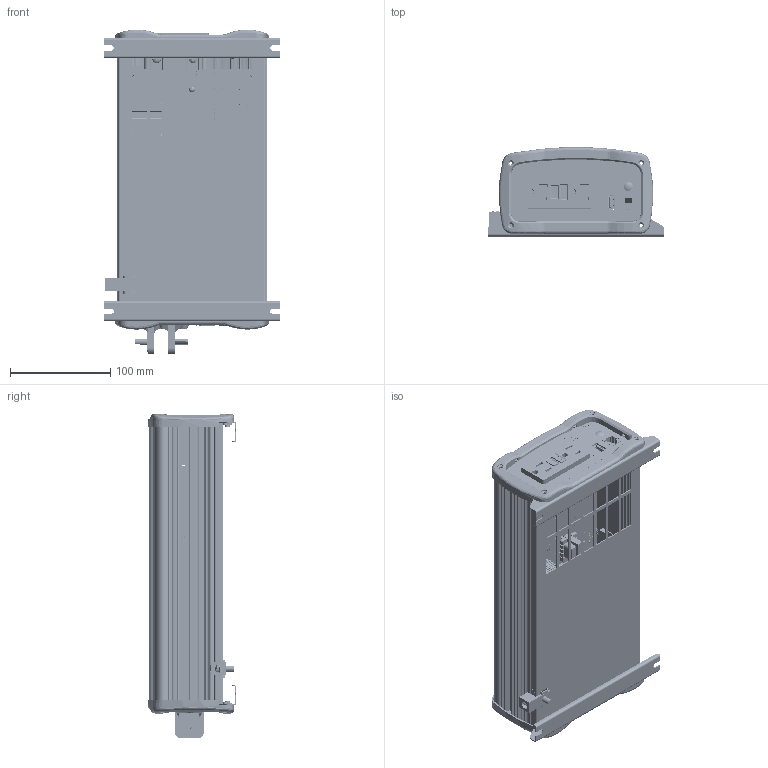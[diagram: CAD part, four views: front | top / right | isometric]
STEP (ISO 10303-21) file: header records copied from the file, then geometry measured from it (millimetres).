
FILE_DESCRIPTION((''),'2;1');
FILE_NAME('MCA96162100_ASM','2017-07-13T',('liu'),(''),'PRO/ENGINEER BY PARAMETRIC TECHNOLOGY CORPORATION, 2006100','PRO/ENGINEER BY PARAMETRIC TECHNOLOGY CORPORATION, 2006100','');
FILE_SCHEMA(('CONFIG_CONTROL_DESIGN'));
Products named in the file (54): MTR50118200; SCW52045600; SPA5902310A; PCB4008540A; PTF90049100; PTF90037700; HET56094400; TRA10047100; SCW52043900; WAS54002300; NUT18009000; HET56094400-ASM_ASM; CHF91056700; ELC30034300; ELC30017600; MEC32020500; TRA10012000; TRA10005400; PCA93129800_ASM; INP65053800; SPA59022900; MCA96162100-1_ASM; SCW52045700; MTR50118400; BUG55010000; BUG55010100; FAN47006800; FAG48001200; SCW52054000; MCA96162200_ASM; MTR50118300; MTR50122400; PCB40094000; SWI41027100; LED16003400; LED16006700; SOK42046800; SOK42076100; SPE15001000; HEA45040300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
Assembly tree (87 placements, depth 5):
  MCA96162100_ASM
    MTR50118200
    SCW52045600  x3
    SPA5902310A  x3
    MCA96162100-1_ASM
      PCA93129800_ASM
        PCB4008540A
        PTF90049100
        PTF90037700
        HET56094400-ASM_ASM  x2
          HET56094400
          TRA10047100
          SCW52043900
          WAS54002300
          NUT18009000
        CHF91056700
        ELC30034300  x2
        ELC30017600  x6
        MEC32020500  x2
        TRA10012000  x6
        TRA10005400  x4
      INP65053800
      SPA59022900  x4
    SCW52045700  x3
    MCA96162200_ASM
      MTR50118400
      BUG55010000
      BUG55010100
      FAN47006800
      FAG48001200
      SCW52054000  x4
    MTR50118300
    MTR50118500_ASM
      MTR50122400
      PCA93129700_ASM
        PCB40094000
        SWI41027100
        LED16003400
        LED16006700
        SOK42046800
        SOK42076100
        SPE15001000
        HEA45040300
        ELC30018100
        ELC30013601  x2
        ICE11043500
        CRY14008000
        TUB66004100-5  x2
        HEA45001700
      WAS54002300  x2
      SCW52009100  x2
      SOK42059600
    LAB73235700
    PLT51052900  x2
    CLI53005700
Bounding box: 175 x 88.65 x 323.72 mm (x, y, z)
Volume: 862220.5 mm3; surface area: 716822.4 mm2
Topology: 95 solids, 95 shells, 17017 faces, 47624 edges, 31087 vertices
Faces by surface type: plane 11576, cylinder 3882, torus 829, bspline 505, cone 178, sphere 47
Entity records: 557178 total; most frequent: CARTESIAN_POINT 150265, ORIENTED_EDGE 87156, DIRECTION 80187, EDGE_CURVE 43578, VECTOR 33765, LINE 33765, VERTEX_POINT 28549, AXIS2_PLACEMENT_3D 23211
